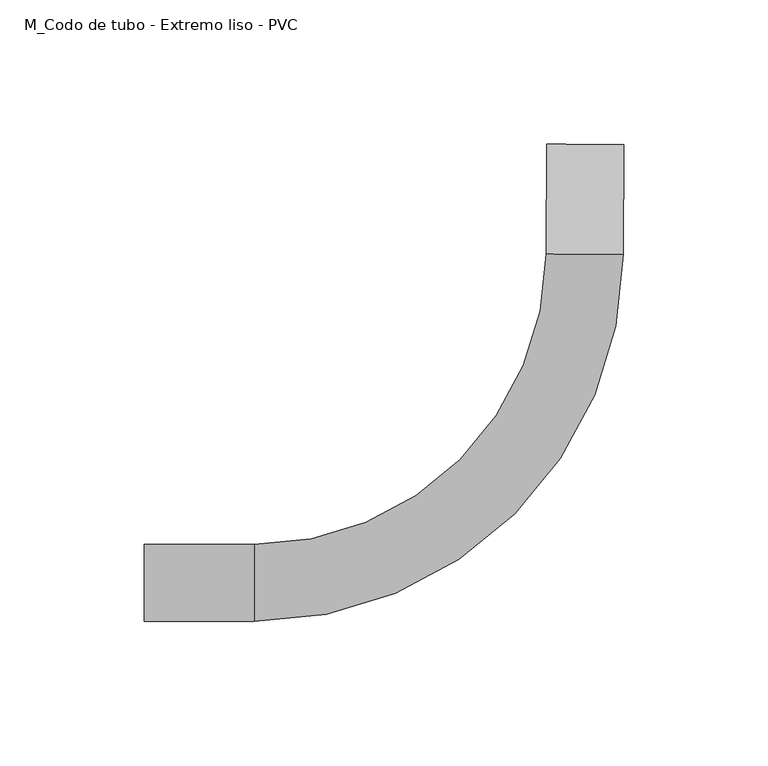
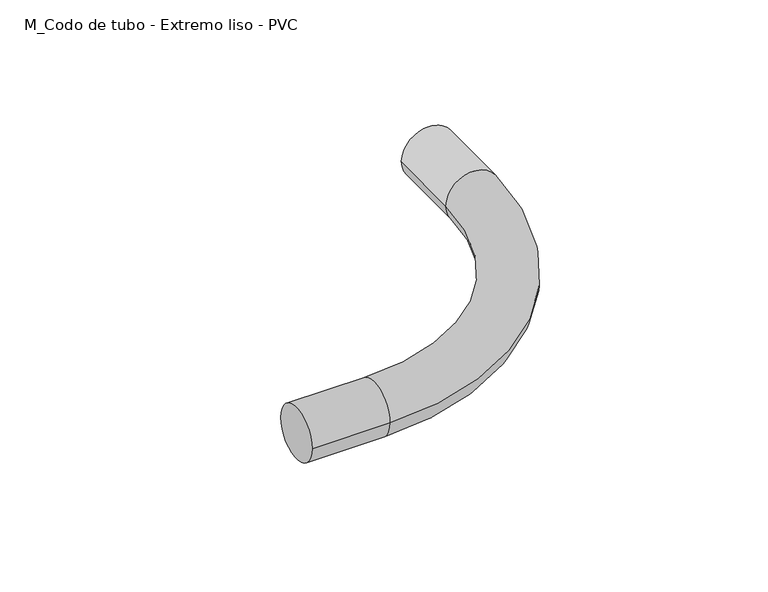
"""IFC4 building model written with IfcOpenShell, lengths in millimetres: cable carrier fitting geometry, M_Codo de tubo - Extremo liso - PVC : CODO POTENCIA."""

from ifc_helpers import new_model, si_unit, point, frame, origin, place, context, project, spatial, circle_curve, ellipse_curve, trimmed, source, transform, mapped, element, save
from ifc_brep_helpers import plane_surface, cylinder_surface, revolved_surface, advanced_brep


def m_codo_de_tubo_extremo_liso_pvc_22de3964(model_context):
    return source(origin(), model_context, "Body", "AdvancedBrep", [
        advanced_brep(
        [(-151.8774156, -13.335, 0.0), (-151.8774156, 13.335, 0.0), (-113.7774156, -13.335, 0.0), (-113.7774156, 13.335, 0.0), (-12.8134757, 113.8373285, 0.0), (13.8562443, 113.7151134, 0.0), (14.0308373, 151.8147133, 0.0), (-12.6388826, 151.9369285, 0.0)],
        [
            (0, 1, circle_curve(frame((-151.8774156, 0.0, 0.0), z_axis=(-1.0, 0.0, 0.0), x_axis=(0.0, 1.0, 0.0)), 13.335)),
            (1, 0, circle_curve(frame((-151.8774156, 0.0, 0.0), z_axis=(-1.0, 0.0, 0.0), x_axis=(0.0, 1.0, 0.0)), 13.335)),
            (0, 2),
            (2, 3, circle_curve(frame((-113.7774156, 0.0, 0.0), z_axis=(-1.0, 0.0, 0.0), x_axis=(0.0, 1.0, 0.0)), 13.335)),
            (3, 1),
            (3, 2, circle_curve(frame((-113.7774156, 0.0, 0.0), z_axis=(-1.0, 0.0, 0.0), x_axis=(0.0, 1.0, 0.0)), 13.335)),
            (4, 3, circle_curve(frame((-113.7774156, 114.3, 0.0), z_axis=(0.0, 0.0, -1.0), x_axis=(0.0, -1.0, 0.0)), 100.965)),
            (2, 5, circle_curve(frame((-113.7774156, 114.3, 0.0), z_axis=(0.0, 0.0, 1.0), x_axis=(0.0, -1.0, 0.0)), 127.635)),
            (5, 4, circle_curve(frame((0.5213843, 113.7762209, 0.0), z_axis=(-0.004582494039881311, -0.9999895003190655, 0.0), x_axis=(-0.9999895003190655, 0.004582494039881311, 0.0)), 13.335)),
            (4, 5, circle_curve(frame((0.5213843, 113.7762209, 0.0), z_axis=(-0.004582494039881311, -0.9999895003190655, 0.0), x_axis=(-0.9999895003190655, 0.004582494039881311, 0.0)), 13.335)),
            (6, 7, circle_curve(frame((0.6959774, 151.8758209, 0.0), z_axis=(0.004582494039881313, 0.9999895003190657, 0.0), x_axis=(-0.9999895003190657, 0.004582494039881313, 0.0)), 13.335)),
            (7, 6, circle_curve(frame((0.6959774, 151.8758209, 0.0), z_axis=(0.004582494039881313, 0.9999895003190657, 0.0), x_axis=(-0.9999895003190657, 0.004582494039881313, 0.0)), 13.335)),
            (5, 6),
            (7, 4),
        ],
        [
            plane_surface(frame((-151.8774156, 0.0, 0.0), z_axis=(-1.0, 0.0, 0.0), x_axis=(0.0, 0.0, 1.0))),
            cylinder_surface(frame((-151.8774156, 0.0, 0.0), z_axis=(-1.0, 0.0, 0.0), x_axis=(0.0, 1.0, 0.0)), 13.335),
            revolved_surface(trimmed(ellipse_curve(frame((-113.7774156, 0.0, 0.0), z_axis=(-1.0, 0.0, 0.0), x_axis=(0.0, 1.0, 0.0)), 13.335, 13.335), [point((-113.7774156, -13.335, 0.0))], [point((-113.7774156, 13.335, 0.0))], True, "CARTESIAN"), (-113.7774156, 114.3, 0.0), (0.0, 0.0, 1.0)),
            revolved_surface(trimmed(ellipse_curve(frame((-113.7774156, 0.0, 0.0), z_axis=(-1.0, 0.0, 0.0), x_axis=(0.0, 1.0, 0.0)), 13.335, 13.335), [point((-113.7774156, 13.335, 0.0))], [point((-113.7774156, -13.335, 0.0))], True, "CARTESIAN"), (-113.7774156, 114.3, 0.0), (0.0, 0.0, 1.0)),
            plane_surface(frame((0.6959774, 151.8758209, 0.0), z_axis=(0.004582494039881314, 0.9999895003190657, 0.0), x_axis=(0.0, 0.0, 1.0))),
            cylinder_surface(frame((0.5213843, 113.7762209, 0.0), z_axis=(-0.004582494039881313, -0.9999895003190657, 0.0), x_axis=(-0.9999895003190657, 0.004582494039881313, 0.0)), 13.335),
        ],
        [
            (0, [[1, 2]]),
            (1, [[-1, 3, 4, 5]]),
            (1, [[-2, -5, 6, -3]]),
            (2, [[7, -4, 8, 9]]),
            (3, [[-8, -6, -7, 10]]),
            (4, [[11, 12]]),
            (5, [[-9, 13, -12, 14]]),
            (5, [[-10, -14, -11, -13]]),
        ],
    ),
    ])


if __name__ == "__main__":
    model = new_model("IFC4")
    model_context = context("Model", 3, world=origin())
    ifc_project = project(units=[si_unit("LENGTHUNIT", "METRE", prefix="MILLI")], contexts=[model_context])
    site = spatial("IfcSite", under=ifc_project)
    building = spatial("IfcBuilding", under=site)
    placement = place(None, origin())
    m_codo_de_tubo_extremo_liso_pvc_shape = m_codo_de_tubo_extremo_liso_pvc_22de3964(model_context)
    element("IfcCableCarrierFitting", 1, ObjectType="M_Codo de tubo - Extremo liso - PVC : CODO POTENCIA", at=placement, inside=building, context=model_context, shape_type="MappedRepresentation", body=[
        mapped(m_codo_de_tubo_extremo_liso_pvc_shape, transform((0.0, 0.0, 0.0), x_axis=(1.0, 0.0, 0.0), y_axis=(0.0, 1.0, 0.0), z_axis=(0.0, 0.0, 1.0))),
    ])
    save(model, "model.ifc")
